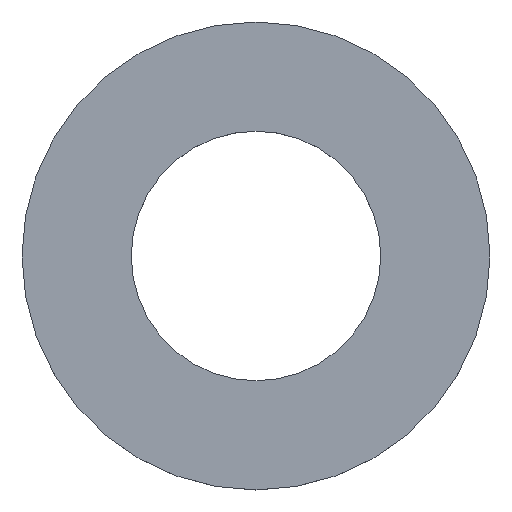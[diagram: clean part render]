
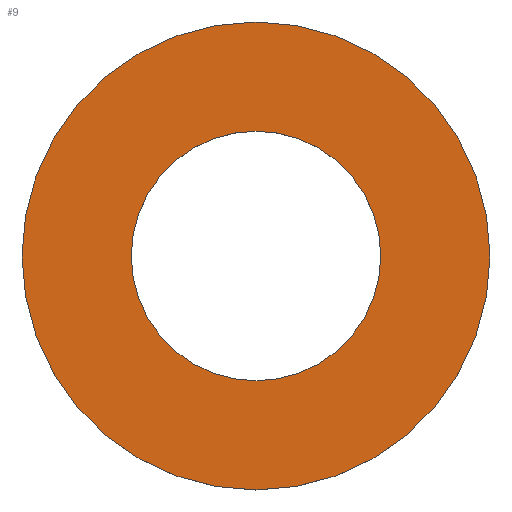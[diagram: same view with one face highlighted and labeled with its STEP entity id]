
A CAD part, top view. The second image highlights one B-rep face of the part: STEP entity #9.
In plain terms, the highlighted planar face has unit normal (0, 0, 1).
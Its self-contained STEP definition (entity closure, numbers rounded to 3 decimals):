
#1 = DIRECTION ( 'NONE',  ( 0., 0., 1. ) ) ;
#2 = EDGE_LOOP ( 'NONE', ( #160, #45 ) ) ;
#4 = FACE_OUTER_BOUND ( 'NONE', #119, .T. ) ;
#7 = CARTESIAN_POINT ( 'NONE',  ( 0., 0., 0.3 ) ) ;
#8 = DIRECTION ( 'NONE',  ( 1., 0., 0. ) ) ;
#9 = ADVANCED_FACE ( 'NONE', ( #4, #163 ), #88, .T. ) ;
#17 = CARTESIAN_POINT ( 'NONE',  ( 0., 0., 0.3 ) ) ;
#19 = EDGE_CURVE ( 'NONE', #60, #104, #89, .T. ) ;
#24 = CARTESIAN_POINT ( 'NONE',  ( 3., 0., 0.3 ) ) ;
#26 = DIRECTION ( 'NONE',  ( 0., 0., 1. ) ) ;
#38 = DIRECTION ( 'NONE',  ( 1., 0., 0. ) ) ;
#45 = ORIENTED_EDGE ( 'NONE', *, *, #173, .F. ) ;
#59 = AXIS2_PLACEMENT_3D ( 'NONE', #7, #68, #83 ) ;
#60 = VERTEX_POINT ( 'NONE', #69 ) ;
#68 = DIRECTION ( 'NONE',  ( 0., 0., 1. ) ) ;
#69 = CARTESIAN_POINT ( 'NONE',  ( -1.6, 0., 0.3 ) ) ;
#73 = VERTEX_POINT ( 'NONE', #127 ) ;
#79 = AXIS2_PLACEMENT_3D ( 'NONE', #152, #85, #38 ) ;
#80 = AXIS2_PLACEMENT_3D ( 'NONE', #194, #176, #8 ) ;
#81 = EDGE_CURVE ( 'NONE', #142, #73, #165, .T. ) ;
#83 = DIRECTION ( 'NONE',  ( 1., 0., 0. ) ) ;
#85 = DIRECTION ( 'NONE',  ( 0., 0., 1. ) ) ;
#86 = CARTESIAN_POINT ( 'NONE',  ( 0., 0., 0.3 ) ) ;
#88 = PLANE ( 'NONE',  #197 ) ;
#89 = CIRCLE ( 'NONE', #92, 1.6 ) ;
#92 = AXIS2_PLACEMENT_3D ( 'NONE', #86, #26, #111 ) ;
#104 = VERTEX_POINT ( 'NONE', #175 ) ;
#110 = EDGE_CURVE ( 'NONE', #73, #142, #182, .T. ) ;
#111 = DIRECTION ( 'NONE',  ( 1., 0., 0. ) ) ;
#117 = ORIENTED_EDGE ( 'NONE', *, *, #81, .T. ) ;
#119 = EDGE_LOOP ( 'NONE', ( #147, #117 ) ) ;
#127 = CARTESIAN_POINT ( 'NONE',  ( -3., 0., 0.3 ) ) ;
#137 = DIRECTION ( 'NONE',  ( 1., 0., 0. ) ) ;
#142 = VERTEX_POINT ( 'NONE', #24 ) ;
#144 = CIRCLE ( 'NONE', #80, 1.6 ) ;
#147 = ORIENTED_EDGE ( 'NONE', *, *, #110, .T. ) ;
#152 = CARTESIAN_POINT ( 'NONE',  ( 0., 0., 0.3 ) ) ;
#160 = ORIENTED_EDGE ( 'NONE', *, *, #19, .F. ) ;
#163 = FACE_BOUND ( 'NONE', #2, .T. ) ;
#165 = CIRCLE ( 'NONE', #59, 3. ) ;
#173 = EDGE_CURVE ( 'NONE', #104, #60, #144, .T. ) ;
#175 = CARTESIAN_POINT ( 'NONE',  ( 1.6, 0., 0.3 ) ) ;
#176 = DIRECTION ( 'NONE',  ( 0., 0., 1. ) ) ;
#182 = CIRCLE ( 'NONE', #79, 3. ) ;
#194 = CARTESIAN_POINT ( 'NONE',  ( 0., 0., 0.3 ) ) ;
#197 = AXIS2_PLACEMENT_3D ( 'NONE', #17, #1, #137 ) ;
